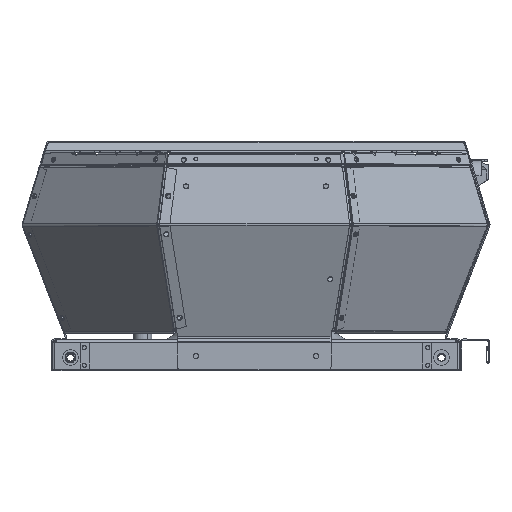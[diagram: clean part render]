
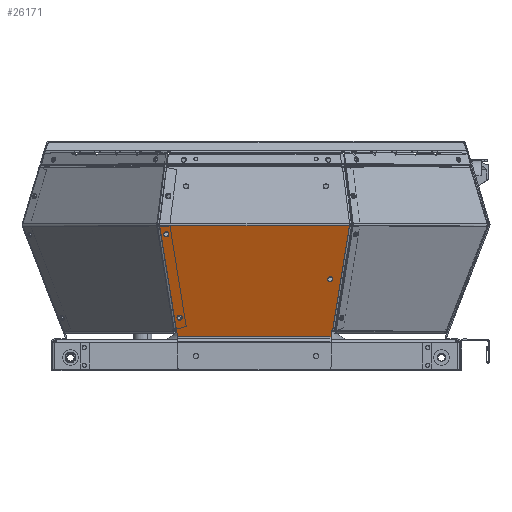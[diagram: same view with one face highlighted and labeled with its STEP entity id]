
A CAD part, top view. The second image highlights one B-rep face of the part: STEP entity #26171.
In plain terms, the highlighted planar face has unit normal (0, -0.362, 0.932).
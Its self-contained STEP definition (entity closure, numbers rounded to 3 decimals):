
#51 = EDGE_CURVE ( 'NONE', #5446, #44766, #35282, .T. ) ;
#364 = CARTESIAN_POINT ( 'NONE',  ( 80., 96.601, 193.982 ) ) ;
#1466 = CIRCLE ( 'NONE', #33877, 2.1 ) ;
#1560 = EDGE_LOOP ( 'NONE', ( #12131, #17303, #34731, #13851, #34675, #74285, #38801, #13798 ) ) ;
#2139 = AXIS2_PLACEMENT_3D ( 'NONE', #2164, #40932, #57899 ) ;
#2164 = CARTESIAN_POINT ( 'NONE',  ( -63.383, 20.276, 164.301 ) ) ;
#2317 = CIRCLE ( 'NONE', #50202, 2.1 ) ;
#2651 = DIRECTION ( 'NONE',  ( 0., -0.362, 0.932 ) ) ;
#2980 = ORIENTED_EDGE ( 'NONE', *, *, #40583, .F. ) ;
#3288 = LINE ( 'NONE', #14219, #4166 ) ;
#3677 = CARTESIAN_POINT ( 'NONE',  ( 80., 97.367, 194.279 ) ) ;
#3848 = CARTESIAN_POINT ( 'NONE',  ( 62.259, 9.286, 160.026 ) ) ;
#4166 = VECTOR ( 'NONE', #65433, 1000. ) ;
#4399 = PLANE ( 'NONE',  #32332 ) ;
#5446 = VERTEX_POINT ( 'NONE', #37523 ) ;
#6341 = DIRECTION ( 'NONE',  ( 0.965, -0.245, -0.095 ) ) ;
#6847 = ORIENTED_EDGE ( 'NONE', *, *, #32222, .T. ) ;
#7411 = CARTESIAN_POINT ( 'NONE',  ( 61.664, 50.251, 175.957 ) ) ;
#8317 = DIRECTION ( 'NONE',  ( 0., -0.932, -0.362 ) ) ;
#8489 = VECTOR ( 'NONE', #44081, 1000. ) ;
#8709 = DIRECTION ( 'NONE',  ( 0.148, 0.922, 0.358 ) ) ;
#9919 = AXIS2_PLACEMENT_3D ( 'NONE', #13577, #2651, #8317 ) ;
#10748 = CARTESIAN_POINT ( 'NONE',  ( -74.512, 89.402, 191.182 ) ) ;
#12131 = ORIENTED_EDGE ( 'NONE', *, *, #25996, .F. ) ;
#13577 = CARTESIAN_POINT ( 'NONE',  ( 61.664, 52.209, 176.718 ) ) ;
#13798 = ORIENTED_EDGE ( 'NONE', *, *, #71906, .F. ) ;
#13851 = ORIENTED_EDGE ( 'NONE', *, *, #27350, .T. ) ;
#14219 = CARTESIAN_POINT ( 'NONE',  ( 80., 4.499, 158.165 ) ) ;
#14244 = CARTESIAN_POINT ( 'NONE',  ( -80., 96.601, 193.982 ) ) ;
#14488 = DIRECTION ( 'NONE',  ( 0., -0.932, -0.362 ) ) ;
#14974 = DIRECTION ( 'NONE',  ( 0., 0.932, 0.362 ) ) ;
#15744 = CARTESIAN_POINT ( 'NONE',  ( 63.536, 9.286, 160.026 ) ) ;
#16071 = FACE_BOUND ( 'NONE', #18800, .T. ) ;
#16139 = CARTESIAN_POINT ( 'NONE',  ( -63.383, 20.276, 164.301 ) ) ;
#17303 = ORIENTED_EDGE ( 'NONE', *, *, #39865, .F. ) ;
#18800 = EDGE_LOOP ( 'NONE', ( #57819, #20522 ) ) ;
#18847 = DIRECTION ( 'NONE',  ( -0.148, 0.922, 0.358 ) ) ;
#20106 = CARTESIAN_POINT ( 'NONE',  ( 62.259, -7.491, 153.503 ) ) ;
#20129 = CARTESIAN_POINT ( 'NONE',  ( -63.383, 18.319, 163.539 ) ) ;
#20522 = ORIENTED_EDGE ( 'NONE', *, *, #58252, .T. ) ;
#21162 = EDGE_CURVE ( 'NONE', #33780, #71520, #66326, .T. ) ;
#21874 = AXIS2_PLACEMENT_3D ( 'NONE', #10748, #55527, #43866 ) ;
#23055 = VECTOR ( 'NONE', #18847, 1000. ) ;
#23692 = DIRECTION ( 'NONE',  ( 0., 0.932, 0.362 ) ) ;
#23746 = LINE ( 'NONE', #52736, #23055 ) ;
#24058 = VERTEX_POINT ( 'NONE', #27732 ) ;
#25216 = VERTEX_POINT ( 'NONE', #7411 ) ;
#25755 = LINE ( 'NONE', #20106, #56744 ) ;
#25996 = EDGE_CURVE ( 'NONE', #74174, #44705, #3288, .T. ) ;
#26171 = ADVANCED_FACE ( 'NONE', ( #49191, #16071, #55961, #67626 ), #4399, .F. ) ;
#26442 = EDGE_CURVE ( 'NONE', #25216, #37403, #2317, .T. ) ;
#26716 = CARTESIAN_POINT ( 'NONE',  ( -74.512, 91.359, 191.943 ) ) ;
#27274 = VECTOR ( 'NONE', #62837, 1000. ) ;
#27350 = EDGE_CURVE ( 'NONE', #33780, #44766, #60255, .T. ) ;
#27732 = CARTESIAN_POINT ( 'NONE',  ( -74.512, 87.445, 190.421 ) ) ;
#27864 = AXIS2_PLACEMENT_3D ( 'NONE', #40256, #46649, #23692 ) ;
#32222 = EDGE_CURVE ( 'NONE', #71605, #55727, #1466, .T. ) ;
#32275 = CARTESIAN_POINT ( 'NONE',  ( -63.383, 22.233, 165.062 ) ) ;
#32332 = AXIS2_PLACEMENT_3D ( 'NONE', #3677, #50680, #14974 ) ;
#33056 = DIRECTION ( 'NONE',  ( 0., 0.932, 0.362 ) ) ;
#33308 = EDGE_CURVE ( 'NONE', #69113, #5446, #61764, .T. ) ;
#33414 = CARTESIAN_POINT ( 'NONE',  ( 77.589, 96.529, 193.954 ) ) ;
#33780 = VERTEX_POINT ( 'NONE', #15744 ) ;
#33877 = AXIS2_PLACEMENT_3D ( 'NONE', #16139, #60589, #33056 ) ;
#34675 = ORIENTED_EDGE ( 'NONE', *, *, #51, .F. ) ;
#34731 = ORIENTED_EDGE ( 'NONE', *, *, #21162, .F. ) ;
#35282 = LINE ( 'NONE', #69918, #46117 ) ;
#35986 = DIRECTION ( 'NONE',  ( 0., -0.932, -0.362 ) ) ;
#36198 = VERTEX_POINT ( 'NONE', #14244 ) ;
#37403 = VERTEX_POINT ( 'NONE', #56784 ) ;
#37523 = CARTESIAN_POINT ( 'NONE',  ( 77.58, 96.532, 193.955 ) ) ;
#37918 = ORIENTED_EDGE ( 'NONE', *, *, #26442, .F. ) ;
#38544 = CARTESIAN_POINT ( 'NONE',  ( 77.58, 96.601, 193.982 ) ) ;
#38801 = ORIENTED_EDGE ( 'NONE', *, *, #65699, .T. ) ;
#39458 = VECTOR ( 'NONE', #8709, 1000. ) ;
#39865 = EDGE_CURVE ( 'NONE', #71520, #74174, #25755, .T. ) ;
#40256 = CARTESIAN_POINT ( 'NONE',  ( -74.512, 89.402, 191.182 ) ) ;
#40583 = EDGE_CURVE ( 'NONE', #37403, #25216, #59222, .T. ) ;
#40932 = DIRECTION ( 'NONE',  ( 0., 0.362, -0.932 ) ) ;
#41801 = ORIENTED_EDGE ( 'NONE', *, *, #47595, .T. ) ;
#43866 = DIRECTION ( 'NONE',  ( 0., 0.932, 0.362 ) ) ;
#44081 = DIRECTION ( 'NONE',  ( -1., 0., 0. ) ) ;
#44254 = CARTESIAN_POINT ( 'NONE',  ( 62.259, 4.499, 158.165 ) ) ;
#44705 = VERTEX_POINT ( 'NONE', #56392 ) ;
#44766 = VERTEX_POINT ( 'NONE', #33414 ) ;
#45533 = CARTESIAN_POINT ( 'NONE',  ( 77.58, 96.532, 193.955 ) ) ;
#46117 = VECTOR ( 'NONE', #6341, 1000. ) ;
#46649 = DIRECTION ( 'NONE',  ( 0., 0.362, -0.932 ) ) ;
#47129 = CIRCLE ( 'NONE', #21874, 2.1 ) ;
#47595 = EDGE_CURVE ( 'NONE', #55727, #71605, #52574, .T. ) ;
#49191 = FACE_BOUND ( 'NONE', #65672, .T. ) ;
#50158 = VECTOR ( 'NONE', #51553, 1000. ) ;
#50202 = AXIS2_PLACEMENT_3D ( 'NONE', #66076, #58964, #35986 ) ;
#50680 = DIRECTION ( 'NONE',  ( 0., 0.362, -0.932 ) ) ;
#51553 = DIRECTION ( 'NONE',  ( 0., -0.932, -0.362 ) ) ;
#52574 = CIRCLE ( 'NONE', #2139, 2.1 ) ;
#52736 = CARTESIAN_POINT ( 'NONE',  ( -65.164, 4.499, 158.165 ) ) ;
#55527 = DIRECTION ( 'NONE',  ( 0., 0.362, -0.932 ) ) ;
#55727 = VERTEX_POINT ( 'NONE', #32275 ) ;
#55961 = FACE_BOUND ( 'NONE', #58239, .T. ) ;
#56392 = CARTESIAN_POINT ( 'NONE',  ( -65.164, 4.499, 158.165 ) ) ;
#56433 = LINE ( 'NONE', #364, #27274 ) ;
#56744 = VECTOR ( 'NONE', #14488, 1000. ) ;
#56784 = CARTESIAN_POINT ( 'NONE',  ( 61.664, 54.166, 177.48 ) ) ;
#57442 = CARTESIAN_POINT ( 'NONE',  ( 62.259, 9.286, 160.026 ) ) ;
#57775 = VERTEX_POINT ( 'NONE', #26716 ) ;
#57819 = ORIENTED_EDGE ( 'NONE', *, *, #73612, .T. ) ;
#57899 = DIRECTION ( 'NONE',  ( 0., 0.932, 0.362 ) ) ;
#58239 = EDGE_LOOP ( 'NONE', ( #41801, #6847 ) ) ;
#58252 = EDGE_CURVE ( 'NONE', #24058, #57775, #47129, .T. ) ;
#58964 = DIRECTION ( 'NONE',  ( 0., -0.362, 0.932 ) ) ;
#59222 = CIRCLE ( 'NONE', #9919, 2.1 ) ;
#60255 = LINE ( 'NONE', #66639, #39458 ) ;
#60589 = DIRECTION ( 'NONE',  ( 0., 0.362, -0.932 ) ) ;
#61764 = LINE ( 'NONE', #45533, #50158 ) ;
#62837 = DIRECTION ( 'NONE',  ( -1., 0., 0. ) ) ;
#64136 = CIRCLE ( 'NONE', #27864, 2.1 ) ;
#65433 = DIRECTION ( 'NONE',  ( -1., 0., 0. ) ) ;
#65672 = EDGE_LOOP ( 'NONE', ( #37918, #2980 ) ) ;
#65699 = EDGE_CURVE ( 'NONE', #69113, #36198, #56433, .T. ) ;
#66076 = CARTESIAN_POINT ( 'NONE',  ( 61.664, 52.209, 176.718 ) ) ;
#66326 = LINE ( 'NONE', #3848, #8489 ) ;
#66639 = CARTESIAN_POINT ( 'NONE',  ( 62.817, 4.827, 158.293 ) ) ;
#67626 = FACE_OUTER_BOUND ( 'NONE', #1560, .T. ) ;
#69113 = VERTEX_POINT ( 'NONE', #38544 ) ;
#69918 = CARTESIAN_POINT ( 'NONE',  ( 77.58, 96.532, 193.955 ) ) ;
#71520 = VERTEX_POINT ( 'NONE', #57442 ) ;
#71605 = VERTEX_POINT ( 'NONE', #20129 ) ;
#71906 = EDGE_CURVE ( 'NONE', #44705, #36198, #23746, .T. ) ;
#73612 = EDGE_CURVE ( 'NONE', #57775, #24058, #64136, .T. ) ;
#74174 = VERTEX_POINT ( 'NONE', #44254 ) ;
#74285 = ORIENTED_EDGE ( 'NONE', *, *, #33308, .F. ) ;
